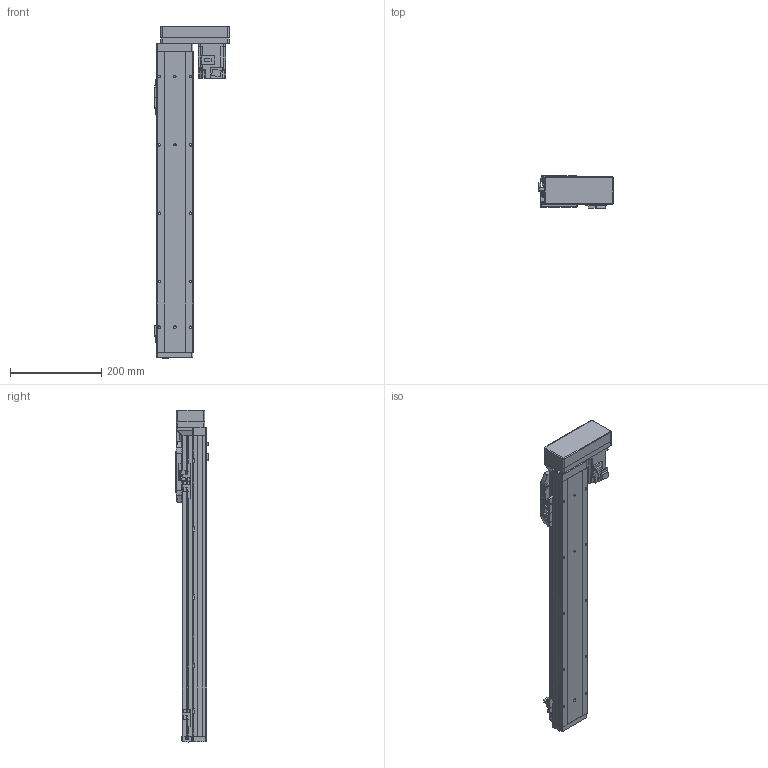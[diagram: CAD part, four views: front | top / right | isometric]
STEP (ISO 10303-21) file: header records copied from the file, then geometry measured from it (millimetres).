
FILE_DESCRIPTION (( 'STEP AP214' ), '1' );
FILE_NAME ('GSH8-500-BL-M20-1.step', '2025-01-07T06:05:59', ( '' ), ( '' ), 'SwSTEP 2.0', 'SolidWorks 2012', '' );
FILE_SCHEMA (( 'AUTOMOTIVE_DESIGN' ));
Length unit declared in the file: millimetre
Products named in the file (5): GSH8-500-BL-M20-1; GSH8-BL-008; GSH8-GY-004; HG-KR23_200W_Motor; GSH8-BL-011-500-M20
Assembly tree (4 placements, depth 2):
  GSH8-500-BL-M20-1
    GSH8-BL-011-500-M20
    GSH8-GY-004
    GSH8-BL-008
    HG-KR23_200W_Motor
Bounding box: 163 x 71.3 x 728.2 mm (x, y, z)
Volume: 1927922.8 mm3; surface area: 466247 mm2
Topology: 4 solids, 8 shells, 1118 faces, 2927 edges, 1882 vertices
Faces by surface type: plane 636, cylinder 386, torus 42, cone 26, bspline 24, sphere 4
Entity records: 43781 total; most frequent: CARTESIAN_POINT 9876, DIRECTION 5939, ORIENTED_EDGE 5838, EDGE_CURVE 2919, AXIS2_PLACEMENT_3D 1997, VECTOR 1945, LINE 1945, VERTEX_POINT 1878
